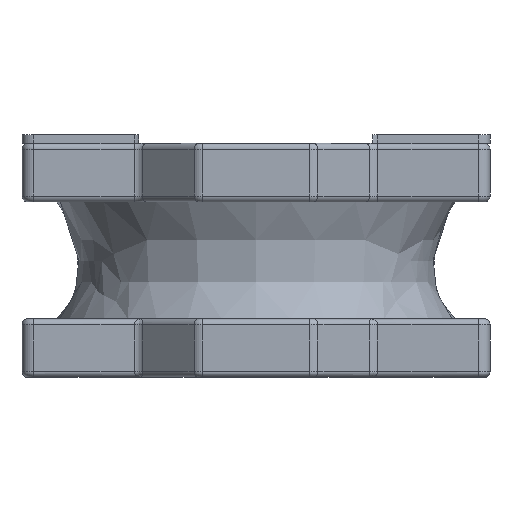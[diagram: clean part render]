
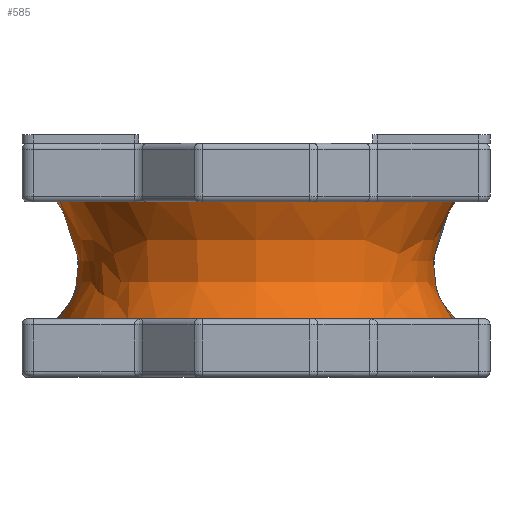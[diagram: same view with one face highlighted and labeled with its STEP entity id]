
A CAD part, left-side view. The second image highlights one B-rep face of the part: STEP entity #585.
In plain terms, the highlighted free-form (B-spline) face has degree [3, 3] with [4, 4] control points.
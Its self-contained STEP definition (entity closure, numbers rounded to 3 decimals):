
#19 = CARTESIAN_POINT ( 'NONE',  ( 0., 3.4, 3. ) ) ;
#94 = FACE_OUTER_BOUND ( 'NONE', #4143, .T. ) ;
#125 = EDGE_CURVE ( 'NONE', #2123, #5424, #3432, .T. ) ;
#183 = CARTESIAN_POINT ( 'NONE',  ( 0., 3.4, 1. ) ) ;
#286 = CARTESIAN_POINT ( 'NONE',  ( 0., 3.4, 1. ) ) ;
#364 = CARTESIAN_POINT ( 'NONE',  ( 0., 3.4, 3. ) ) ;
#585 = ADVANCED_FACE ( 'NONE', ( #94 ), #5688, .T. ) ;
#662 = AXIS2_PLACEMENT_3D ( 'NONE', #8652, #5984, #3194 ) ;
#810 = VERTEX_POINT ( 'NONE', #183 ) ;
#1012 = CARTESIAN_POINT ( 'NONE',  ( 0., -3.4, 3. ) ) ;
#1135 = CARTESIAN_POINT ( 'NONE',  ( 0., -3.035, 2.43 ) ) ;
#1170 = CARTESIAN_POINT ( 'NONE',  ( 0., 3.035, 2.43 ) ) ;
#1617 = CARTESIAN_POINT ( 'NONE',  ( -6.07, -3.035, 2.43 ) ) ;
#1789 = CARTESIAN_POINT ( 'NONE',  ( 0., 3.4, 1. ) ) ;
#1848 = ORIENTED_EDGE ( 'NONE', *, *, #5345, .T. ) ;
#1993 = ORIENTED_EDGE ( 'NONE', *, *, #5059, .F. ) ;
#2123 = VERTEX_POINT ( 'NONE', #7265 ) ;
#2335 = CARTESIAN_POINT ( 'NONE',  ( 0., -3.035, 2.43 ) ) ;
#2558 = CARTESIAN_POINT ( 'NONE',  ( 0., -2.82, 1.535 ) ) ;
#2727 = DIRECTION ( 'NONE',  ( -1., 0., 0. ) ) ;
#2815 = CARTESIAN_POINT ( 'NONE',  ( 0., -3.4, 3. ) ) ;
#3049 = CARTESIAN_POINT ( 'NONE',  ( 0., -3.4, 1. ) ) ;
#3194 = DIRECTION ( 'NONE',  ( -1., 0., 0. ) ) ;
#3432 = B_SPLINE_CURVE_WITH_KNOTS ( 'NONE', 3,
 ( #3858, #2558, #1135, #8682 ),
 .UNSPECIFIED., .F., .F.,
 ( 4, 4 ),
 ( 0., 1. ),
 .UNSPECIFIED. ) ;
#3857 = CARTESIAN_POINT ( 'NONE',  ( 0., 2.82, 1.535 ) ) ;
#3858 = CARTESIAN_POINT ( 'NONE',  ( 0., -3.4, 1. ) ) ;
#3862 = ORIENTED_EDGE ( 'NONE', *, *, #7769, .F. ) ;
#4143 = EDGE_LOOP ( 'NONE', ( #1993, #5548, #1848, #3862 ) ) ;
#4369 = CARTESIAN_POINT ( 'NONE',  ( -6.8, -3.4, 1. ) ) ;
#4545 = CARTESIAN_POINT ( 'NONE',  ( -6.8, 3.4, 3. ) ) ;
#5059 = EDGE_CURVE ( 'NONE', #2123, #810, #6538, .T. ) ;
#5345 = EDGE_CURVE ( 'NONE', #5424, #8422, #7405, .T. ) ;
#5395 = AXIS2_PLACEMENT_3D ( 'NONE', #8904, #7467, #2727 ) ;
#5424 = VERTEX_POINT ( 'NONE', #2815 ) ;
#5548 = ORIENTED_EDGE ( 'NONE', *, *, #125, .T. ) ;
#5688 =( BOUNDED_SURFACE ( )  B_SPLINE_SURFACE ( 3, 3, ( 
 ( #3049, #4369, #7156, #286 ),
 ( #8466, #7783, #6468, #3857 ),
 ( #2335, #1617, #7107, #8637 ),
 ( #1012, #6515, #4545, #5789 ) ),
 .UNSPECIFIED., .F., .F., .F. ) 
 B_SPLINE_SURFACE_WITH_KNOTS ( ( 4, 4 ),
 ( 4, 4 ),
 ( 0., 1. ),
 ( 0., 1. ),
 .UNSPECIFIED. ) 
 GEOMETRIC_REPRESENTATION_ITEM ( )  RATIONAL_B_SPLINE_SURFACE ( (
 ( 1., 0.333, 0.333, 1.),
 ( 1., 0.333, 0.333, 1.),
 ( 1., 0.333, 0.333, 1.),
 ( 1., 0.333, 0.333, 1.) ) ) 
 REPRESENTATION_ITEM ( '' )  SURFACE ( )  );
#5789 = CARTESIAN_POINT ( 'NONE',  ( 0., 3.4, 3. ) ) ;
#5984 = DIRECTION ( 'NONE',  ( 0., 0., -1. ) ) ;
#6468 = CARTESIAN_POINT ( 'NONE',  ( -5.64, 2.82, 1.535 ) ) ;
#6515 = CARTESIAN_POINT ( 'NONE',  ( -6.8, -3.4, 3. ) ) ;
#6538 = CIRCLE ( 'NONE', #662, 3.4 ) ;
#7107 = CARTESIAN_POINT ( 'NONE',  ( -6.07, 3.035, 2.43 ) ) ;
#7156 = CARTESIAN_POINT ( 'NONE',  ( -6.8, 3.4, 1. ) ) ;
#7265 = CARTESIAN_POINT ( 'NONE',  ( 0., -3.4, 1. ) ) ;
#7327 = CARTESIAN_POINT ( 'NONE',  ( 0., 2.82, 1.535 ) ) ;
#7405 = CIRCLE ( 'NONE', #5395, 3.4 ) ;
#7467 = DIRECTION ( 'NONE',  ( 0., 0., -1. ) ) ;
#7566 = B_SPLINE_CURVE_WITH_KNOTS ( 'NONE', 3,
 ( #1789, #7327, #1170, #364 ),
 .UNSPECIFIED., .F., .F.,
 ( 4, 4 ),
 ( 0., 1. ),
 .UNSPECIFIED. ) ;
#7769 = EDGE_CURVE ( 'NONE', #810, #8422, #7566, .T. ) ;
#7783 = CARTESIAN_POINT ( 'NONE',  ( -5.64, -2.82, 1.535 ) ) ;
#8422 = VERTEX_POINT ( 'NONE', #19 ) ;
#8466 = CARTESIAN_POINT ( 'NONE',  ( 0., -2.82, 1.535 ) ) ;
#8637 = CARTESIAN_POINT ( 'NONE',  ( 0., 3.035, 2.43 ) ) ;
#8652 = CARTESIAN_POINT ( 'NONE',  ( 0., 0., 1. ) ) ;
#8682 = CARTESIAN_POINT ( 'NONE',  ( 0., -3.4, 3. ) ) ;
#8904 = CARTESIAN_POINT ( 'NONE',  ( 0., 0., 3. ) ) ;
